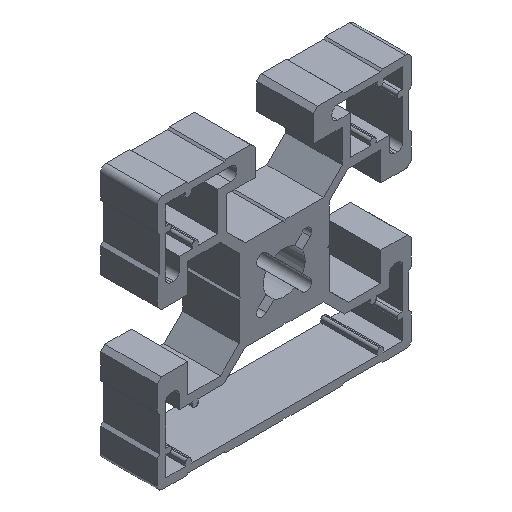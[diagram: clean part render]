
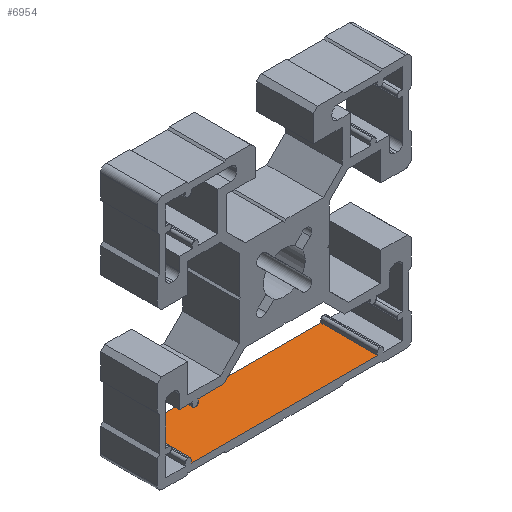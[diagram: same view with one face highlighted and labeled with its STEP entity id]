
A CAD part, isometric view. The second image highlights one B-rep face of the part: STEP entity #6954.
In plain terms, the highlighted planar face has unit normal (0, 0, 1).
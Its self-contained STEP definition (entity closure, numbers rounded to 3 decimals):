
#711=DIRECTION('',(-1.,0.,0.));
#712=VECTOR('',#711,33.);
#713=CARTESIAN_POINT('',(16.5,0.,-21.));
#714=LINE('',#713,#712);
#1599=DIRECTION('',(-1.,0.,0.));
#1600=VECTOR('',#1599,33.);
#1601=CARTESIAN_POINT('',(16.5,10.,-21.));
#1602=LINE('',#1601,#1600);
#2577=DIRECTION('',(0.,1.,0.));
#2578=VECTOR('',#2577,10.);
#2579=CARTESIAN_POINT('',(16.5,0.,-21.));
#2580=LINE('',#2579,#2578);
#2581=DIRECTION('',(0.,1.,0.));
#2582=VECTOR('',#2581,10.);
#2583=CARTESIAN_POINT('',(-16.5,0.,-21.));
#2584=LINE('',#2583,#2582);
#3317=CARTESIAN_POINT('',(16.5,0.,-21.));
#3318=CARTESIAN_POINT('',(16.5,10.,-21.));
#3319=VERTEX_POINT('',#3317);
#3320=VERTEX_POINT('',#3318);
#3329=CARTESIAN_POINT('',(-16.5,0.,-21.));
#3330=CARTESIAN_POINT('',(-16.5,10.,-21.));
#3331=VERTEX_POINT('',#3329);
#3332=VERTEX_POINT('',#3330);
#6941=CARTESIAN_POINT('',(21.,0.,-21.));
#6942=DIRECTION('',(0.,0.,-1.));
#6943=DIRECTION('',(-1.,0.,0.));
#6944=AXIS2_PLACEMENT_3D('',#6941,#6942,#6943);
#6945=PLANE('',#6944);
#6947=ORIENTED_EDGE('',*,*,#6946,.F.);
#6948=ORIENTED_EDGE('',*,*,#3996,.T.);
#6950=ORIENTED_EDGE('',*,*,#6949,.T.);
#6951=ORIENTED_EDGE('',*,*,#4660,.F.);
#6952=EDGE_LOOP('',(#6947,#6948,#6950,#6951));
#6953=FACE_OUTER_BOUND('',#6952,.F.);
#6954=ADVANCED_FACE('',(#6953),#6945,.F.);
#3996=EDGE_CURVE('',#3319,#3331,#714,.T.);
#4660=EDGE_CURVE('',#3320,#3332,#1602,.T.);
#6946=EDGE_CURVE('',#3319,#3320,#2580,.T.);
#6949=EDGE_CURVE('',#3331,#3332,#2584,.T.);
